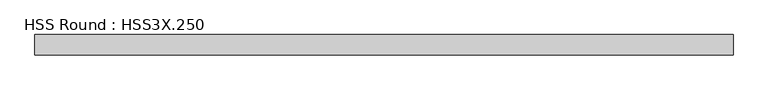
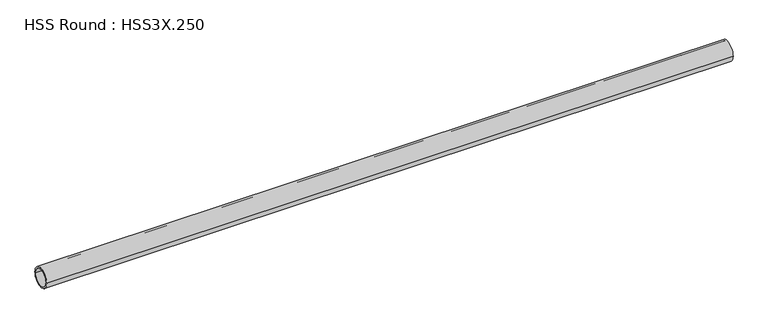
"""IFC4 building model written with IfcOpenShell, lengths in millimetres: member geometry, HSS Round : HSS3X.250."""

from ifc_helpers import new_model, si_unit, point, frame, origin, origin_2d, place, context, project, spatial, circle_curve, trimmed, segment, composite_curve, outline, extrude, source, transform, mapped, element, save


def hss_round_hss3x_250_05f57986(model_context):
    return source(origin(), model_context, "Body", "SweptSolid", [
        extrude(outline(composite_curve([segment(trimmed(circle_curve(origin_2d(), 38.1), [point((-38.1, 0.0))], [point((38.1, 0.0))], False, "CARTESIAN"), True, "CONTINUOUS"), segment(trimmed(circle_curve(origin_2d(), 38.1), [point((38.1, 0.0))], [point((-38.1, 0.0))], False, "CARTESIAN"), True, "CONTINUOUS")], self_intersect=False), holes=[composite_curve([segment(trimmed(circle_curve(origin_2d(), 31.75), [point((31.75, 0.0))], [point((-31.75, 0.0))], True, "CARTESIAN"), True, "CONTINUOUS"), segment(trimmed(circle_curve(origin_2d(), 31.75), [point((-31.75, 0.0))], [point((31.75, 0.0))], True, "CARTESIAN"), True, "CONTINUOUS")], self_intersect=False)]), frame((-1265.9172558, 0.0, 0.0), z_axis=(1.0, 0.0, 0.0), x_axis=(0.0, 1.0, 0.0)), (0.0, 0.0, 1.0), 2589.8788873),
    ])


if __name__ == "__main__":
    model = new_model("IFC4")
    model_context = context("Model", 3, world=origin())
    ifc_project = project(units=[si_unit("LENGTHUNIT", "METRE", prefix="MILLI")], contexts=[model_context])
    site = spatial("IfcSite", under=ifc_project)
    building = spatial("IfcBuilding", under=site)
    placement = place(None, origin())
    hss_round_hss3x_250_shape = hss_round_hss3x_250_05f57986(model_context)
    element("IfcMember", 1, ObjectType="HSS Round : HSS3X.250", at=placement, inside=building, context=model_context, shape_type="MappedRepresentation", body=[
        mapped(hss_round_hss3x_250_shape, transform((0.0, 0.0, 0.0), x_axis=(1.0, 0.0, 0.0), y_axis=(0.0, 1.0, 0.0), z_axis=(0.0, 0.0, 1.0))),
    ])
    save(model, "model.ifc")
